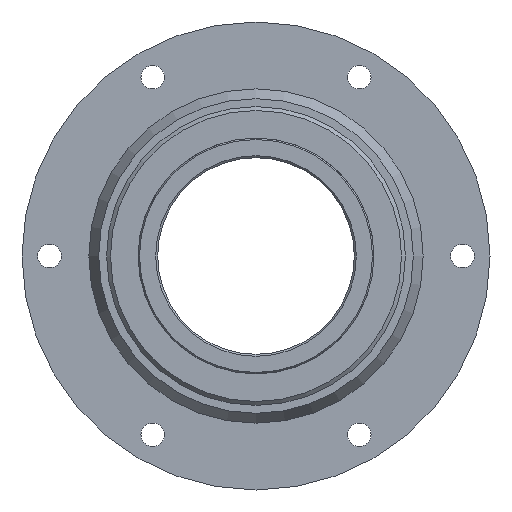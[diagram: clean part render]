
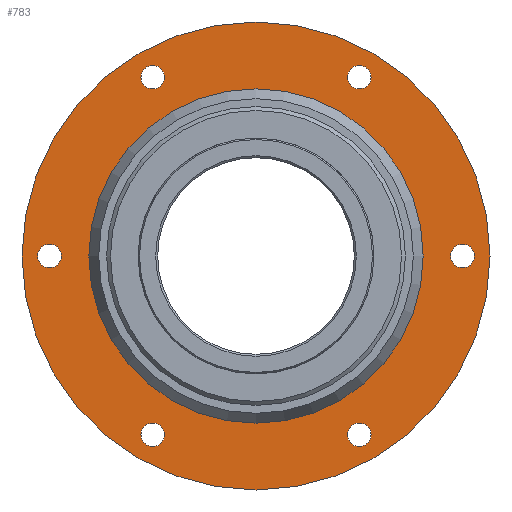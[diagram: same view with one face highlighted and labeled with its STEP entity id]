
A CAD part, front view. The second image highlights one B-rep face of the part: STEP entity #783.
In plain terms, the highlighted planar face has unit normal (0, -1, 0).
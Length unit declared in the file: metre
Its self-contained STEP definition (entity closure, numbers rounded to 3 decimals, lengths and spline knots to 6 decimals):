
#783=ADVANCED_FACE('',(#1943,#1944,#1945,#1946,#1947,#1948,#1949,#1950),#1951,.T.);
#1943=FACE_BOUND('',#3845,.T.);
#1944=FACE_BOUND('',#3846,.T.);
#1945=FACE_BOUND('',#3847,.T.);
#1946=FACE_BOUND('',#3848,.T.);
#1947=FACE_BOUND('',#3849,.T.);
#1948=FACE_BOUND('',#3850,.T.);
#1949=FACE_OUTER_BOUND('',#3851,.T.);
#1950=FACE_BOUND('',#3852,.T.);
#1951=PLANE('',#3853);
#3845=EDGE_LOOP('',(#6366));
#3846=EDGE_LOOP('',(#6367));
#3847=EDGE_LOOP('',(#6368));
#3848=EDGE_LOOP('',(#6369));
#3849=EDGE_LOOP('',(#6370));
#3850=EDGE_LOOP('',(#6371));
#3851=EDGE_LOOP('',(#6372));
#3852=EDGE_LOOP('',(#6373));
#3853=AXIS2_PLACEMENT_3D('',#6374,#6375,#6376);
#6366=ORIENTED_EDGE('',*,*,#7194,.F.);
#6367=ORIENTED_EDGE('',*,*,#7195,.F.);
#6368=ORIENTED_EDGE('',*,*,#7196,.F.);
#6369=ORIENTED_EDGE('',*,*,#7158,.F.);
#6370=ORIENTED_EDGE('',*,*,#7197,.F.);
#6371=ORIENTED_EDGE('',*,*,#7198,.F.);
#6372=ORIENTED_EDGE('',*,*,#7150,.T.);
#6373=ORIENTED_EDGE('',*,*,#7199,.F.);
#6374=CARTESIAN_POINT('',(-0.045704,0.053891,0.0));
#6375=DIRECTION('',(0.0,-1.0,0.0));
#6376=DIRECTION('',(0.0,0.0,-1.0));
#7150=EDGE_CURVE('',#7310,#7310,#7311,.T.);
#7158=EDGE_CURVE('',#7323,#7323,#7324,.T.);
#7194=EDGE_CURVE('',#7385,#7385,#7386,.T.);
#7195=EDGE_CURVE('',#7387,#7387,#7388,.T.);
#7196=EDGE_CURVE('',#7389,#7389,#7390,.T.);
#7197=EDGE_CURVE('',#7391,#7391,#7392,.T.);
#7198=EDGE_CURVE('',#7393,#7393,#7394,.T.);
#7199=EDGE_CURVE('',#7395,#7395,#7396,.T.);
#7310=VERTEX_POINT('',#7547);
#7311=CIRCLE('',#7548,0.0595);
#7323=VERTEX_POINT('',#7560);
#7324=CIRCLE('',#7561,0.003);
#7385=VERTEX_POINT('',#7636);
#7386=CIRCLE('',#7637,0.003);
#7387=VERTEX_POINT('',#7638);
#7388=CIRCLE('',#7639,0.003);
#7389=VERTEX_POINT('',#7640);
#7390=CIRCLE('',#7641,0.003);
#7391=VERTEX_POINT('',#7642);
#7392=CIRCLE('',#7643,0.003);
#7393=VERTEX_POINT('',#7644);
#7394=CIRCLE('',#7645,0.003);
#7395=VERTEX_POINT('',#7646);
#7396=CIRCLE('',#7647,0.0425);
#7547=CARTESIAN_POINT('',(-0.003204,0.053891,-0.0595));
#7548=AXIS2_PLACEMENT_3D('',#7888,#7889,#7890);
#7560=CARTESIAN_POINT('',(0.023046,0.053891,0.042466));
#7561=AXIS2_PLACEMENT_3D('',#7903,#7904,#7905);
#7636=CARTESIAN_POINT('',(-0.029454,0.053891,-0.048466));
#7637=AXIS2_PLACEMENT_3D('',#7965,#7966,#7967);
#7638=CARTESIAN_POINT('',(0.023046,0.053891,-0.048466));
#7639=AXIS2_PLACEMENT_3D('',#7968,#7969,#7970);
#7640=CARTESIAN_POINT('',(0.049296,0.053891,-0.003));
#7641=AXIS2_PLACEMENT_3D('',#7971,#7972,#7973);
#7642=CARTESIAN_POINT('',(-0.029454,0.053891,0.042466));
#7643=AXIS2_PLACEMENT_3D('',#7974,#7975,#7976);
#7644=CARTESIAN_POINT('',(-0.055704,0.053891,-0.003));
#7645=AXIS2_PLACEMENT_3D('',#7977,#7978,#7979);
#7646=CARTESIAN_POINT('',(-0.003204,0.053891,-0.0425));
#7647=AXIS2_PLACEMENT_3D('',#7980,#7981,#7982);
#7888=CARTESIAN_POINT('',(-0.003204,0.053891,0.0));
#7889=DIRECTION('',(0.0,-1.0,0.0));
#7890=DIRECTION('',(0.0,0.0,-1.0));
#7903=CARTESIAN_POINT('',(0.023046,0.053891,0.045466));
#7904=DIRECTION('',(0.0,-1.0,0.0));
#7905=DIRECTION('',(0.0,0.0,-1.0));
#7965=CARTESIAN_POINT('',(-0.029454,0.053891,-0.045466));
#7966=DIRECTION('',(0.0,-1.0,0.0));
#7967=DIRECTION('',(0.0,0.0,-1.0));
#7968=CARTESIAN_POINT('',(0.023046,0.053891,-0.045466));
#7969=DIRECTION('',(0.0,-1.0,0.0));
#7970=DIRECTION('',(0.0,0.0,-1.0));
#7971=CARTESIAN_POINT('',(0.049296,0.053891,0.));
#7972=DIRECTION('',(0.0,-1.0,0.0));
#7973=DIRECTION('',(0.0,0.0,-1.0));
#7974=CARTESIAN_POINT('',(-0.029454,0.053891,0.045466));
#7975=DIRECTION('',(0.0,-1.0,0.0));
#7976=DIRECTION('',(0.0,0.0,-1.0));
#7977=CARTESIAN_POINT('',(-0.055704,0.053891,0.0));
#7978=DIRECTION('',(0.0,-1.0,0.0));
#7979=DIRECTION('',(0.0,0.0,-1.0));
#7980=CARTESIAN_POINT('',(-0.003204,0.053891,0.0));
#7981=DIRECTION('',(0.0,-1.0,0.0));
#7982=DIRECTION('',(0.0,0.0,-1.0));
